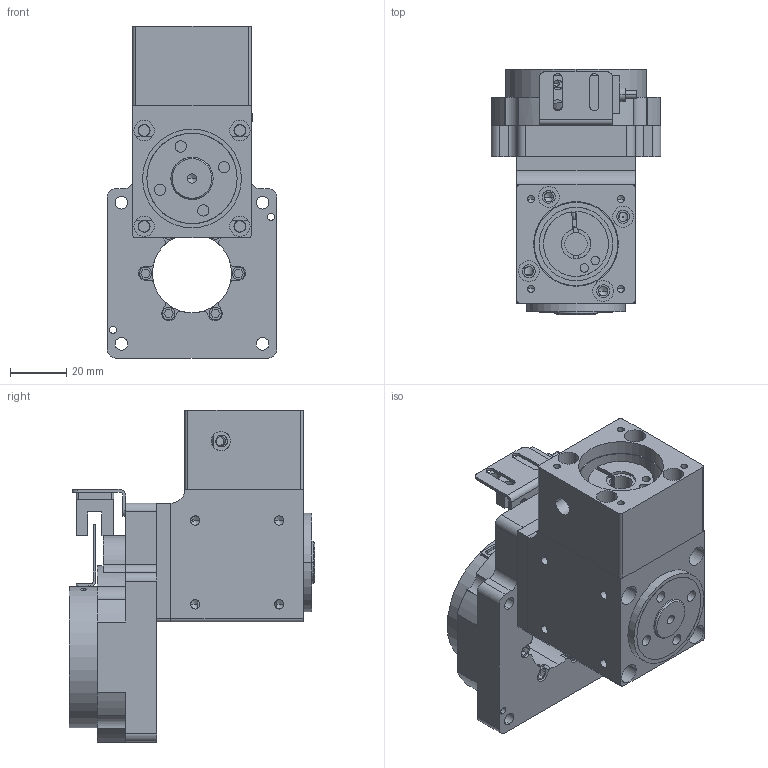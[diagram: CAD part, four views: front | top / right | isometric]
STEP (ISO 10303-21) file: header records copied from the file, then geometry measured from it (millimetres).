
FILE_DESCRIPTION(('Open CASCADE Model'),'2;1');
FILE_NAME('Open CASCADE Shape Model','2026-10-11T02:54:56',('Author'),( 'Open CASCADE'),'Open CASCADE STEP processor 7.8','Open CASCADE 7.8' ,'Unknown');
FILE_SCHEMA(('AUTOMOTIVE_DESIGN { 1 0 10303 214 1 1 1 1 }'));
Length unit declared in the file: millimetre
Products named in the file (3): NTFA60-R-05-PVFD42-M1(配100W伺服 输入8-30-45-M3); NTFA60-R-05-PVFD42-M1(配100W伺服 输入8-30-45-M3)-01; NTFA60-R-05-PVFD42-M1(配100W伺服 输入8-30-45-M3)-02
Assembly tree (2 placements, depth 2):
  NTFA60-R-05-PVFD42-M1(配100W伺服 输入8-30-45-M3)
    NTFA60-R-05-PVFD42-M1(配100W伺服 输入8-30-45-M3)-01
    NTFA60-R-05-PVFD42-M1(配100W伺服 输入8-30-45-M3)-02
Bounding box: 60 x 87 x 117.6 mm (x, y, z)
Volume: 187443.5 mm3; surface area: 81639.5 mm2
Topology: 13 solids, 21 shells, 1652 faces, 4732 edges, 3076 vertices
Faces by surface type: plane 869, cylinder 408, bspline 275, cone 100
Entity records: 173126 total; most frequent: CARTESIAN_POINT 88164, DIRECTION 13425, ORIENTED_EDGE 9316, PCURVE 9316, DEFINITIONAL_REPRESENTATION 9316, LINE 8000, VECTOR 8000, EDGE_CURVE 4658
